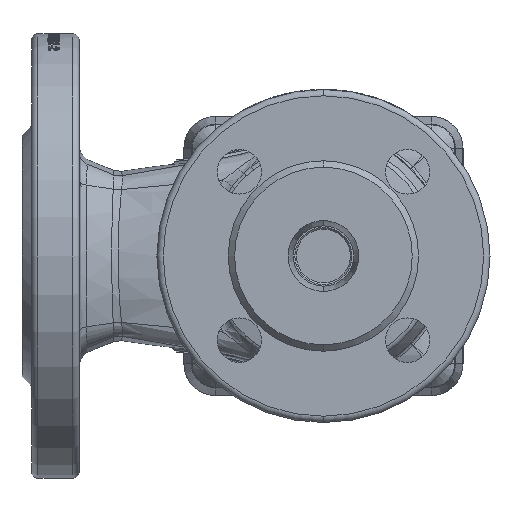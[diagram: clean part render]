
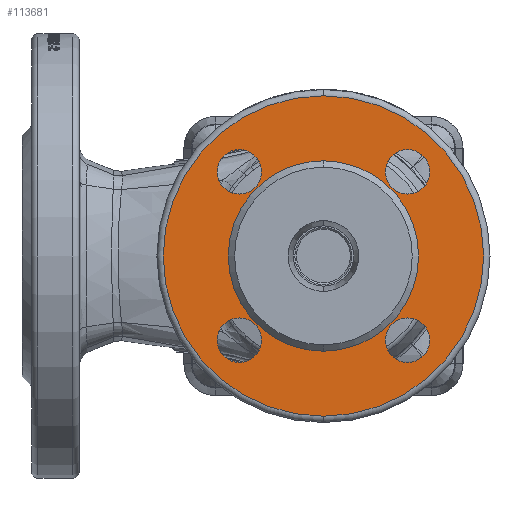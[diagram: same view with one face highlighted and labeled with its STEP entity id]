
A CAD part, front view. The second image highlights one B-rep face of the part: STEP entity #113681.
In plain terms, the highlighted planar face has unit normal (0, -1, 0).
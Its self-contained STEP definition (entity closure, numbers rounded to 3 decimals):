
#1334 = EDGE_CURVE ( 'NONE', #82433, #124693, #45755, .T. ) ;
#3461 = CARTESIAN_POINT ( 'NONE',  ( 0., -83., 50.5 ) ) ;
#3988 = EDGE_LOOP ( 'NONE', ( #109346, #88307 ) ) ;
#7831 = EDGE_CURVE ( 'NONE', #69328, #118741, #100975, .T. ) ;
#8564 = CARTESIAN_POINT ( 'NONE',  ( -26.517, -83., 33.517 ) ) ;
#9145 = EDGE_CURVE ( 'NONE', #128654, #79265, #37622, .T. ) ;
#11110 = DIRECTION ( 'NONE',  ( 0., 0., -1. ) ) ;
#11759 = FACE_BOUND ( 'NONE', #91321, .T. ) ;
#16196 = ORIENTED_EDGE ( 'NONE', *, *, #1334, .F. ) ;
#16458 = ORIENTED_EDGE ( 'NONE', *, *, #156417, .F. ) ;
#16763 = CIRCLE ( 'NONE', #139340, 30. ) ;
#18771 = CIRCLE ( 'NONE', #25528, 7. ) ;
#21673 = CARTESIAN_POINT ( 'NONE',  ( -26.517, -83., -26.517 ) ) ;
#25528 = AXIS2_PLACEMENT_3D ( 'NONE', #149979, #138938, #75135 ) ;
#26782 = CIRCLE ( 'NONE', #137940, 7. ) ;
#27554 = DIRECTION ( 'NONE',  ( 0., -1., 0. ) ) ;
#28875 = ORIENTED_EDGE ( 'NONE', *, *, #109331, .F. ) ;
#32017 = CIRCLE ( 'NONE', #108025, 30. ) ;
#33933 = AXIS2_PLACEMENT_3D ( 'NONE', #123357, #48562, #59049 ) ;
#34209 = CARTESIAN_POINT ( 'NONE',  ( 26.517, -83., 26.517 ) ) ;
#37289 = AXIS2_PLACEMENT_3D ( 'NONE', #140206, #27554, #154555 ) ;
#37622 = CIRCLE ( 'NONE', #141356, 7. ) ;
#40236 = CIRCLE ( 'NONE', #75180, 7. ) ;
#42954 = CARTESIAN_POINT ( 'NONE',  ( 26.517, -83., -19.517 ) ) ;
#45755 = CIRCLE ( 'NONE', #118991, 7. ) ;
#47085 = CIRCLE ( 'NONE', #65277, 50.5 ) ;
#47385 = CARTESIAN_POINT ( 'NONE',  ( 26.517, -83., 19.517 ) ) ;
#48562 = DIRECTION ( 'NONE',  ( 0., 1., 0. ) ) ;
#49136 = DIRECTION ( 'NONE',  ( 0., -1., 0. ) ) ;
#50008 = VERTEX_POINT ( 'NONE', #116886 ) ;
#52258 = DIRECTION ( 'NONE',  ( 0., -1., 0. ) ) ;
#55863 = AXIS2_PLACEMENT_3D ( 'NONE', #124456, #49136, #74401 ) ;
#59044 = FACE_BOUND ( 'NONE', #151344, .T. ) ;
#59049 = DIRECTION ( 'NONE',  ( 0., 0., 1. ) ) ;
#59457 = CIRCLE ( 'NONE', #73773, 7. ) ;
#60000 = DIRECTION ( 'NONE',  ( 0., -1., 0. ) ) ;
#61754 = EDGE_CURVE ( 'NONE', #79265, #128654, #59457, .T. ) ;
#62117 = CARTESIAN_POINT ( 'NONE',  ( 26.517, -83., 33.517 ) ) ;
#64496 = CARTESIAN_POINT ( 'NONE',  ( -26.517, -83., -33.517 ) ) ;
#65277 = AXIS2_PLACEMENT_3D ( 'NONE', #99311, #100935, #149953 ) ;
#66002 = DIRECTION ( 'NONE',  ( 0., 0., 1. ) ) ;
#66576 = PLANE ( 'NONE',  #37289 ) ;
#69328 = VERTEX_POINT ( 'NONE', #131508 ) ;
#69403 = VERTEX_POINT ( 'NONE', #134206 ) ;
#71289 = ORIENTED_EDGE ( 'NONE', *, *, #96939, .T. ) ;
#71330 = EDGE_CURVE ( 'NONE', #50008, #144292, #16763, .T. ) ;
#71348 = CARTESIAN_POINT ( 'NONE',  ( -26.517, -83., -26.517 ) ) ;
#71551 = VERTEX_POINT ( 'NONE', #135076 ) ;
#73773 = AXIS2_PLACEMENT_3D ( 'NONE', #115745, #154341, #91603 ) ;
#74401 = DIRECTION ( 'NONE',  ( 0., 0., -1. ) ) ;
#75135 = DIRECTION ( 'NONE',  ( 0., 0., -1. ) ) ;
#75180 = AXIS2_PLACEMENT_3D ( 'NONE', #71348, #146133, #134014 ) ;
#76427 = CARTESIAN_POINT ( 'NONE',  ( 26.517, -83., -26.517 ) ) ;
#77935 = ORIENTED_EDGE ( 'NONE', *, *, #61754, .F. ) ;
#78929 = ORIENTED_EDGE ( 'NONE', *, *, #160327, .F. ) ;
#79265 = VERTEX_POINT ( 'NONE', #62117 ) ;
#82433 = VERTEX_POINT ( 'NONE', #64496 ) ;
#88307 = ORIENTED_EDGE ( 'NONE', *, *, #91172, .F. ) ;
#88498 = FACE_BOUND ( 'NONE', #140061, .T. ) ;
#91172 = EDGE_CURVE ( 'NONE', #71551, #147580, #47085, .T. ) ;
#91321 = EDGE_LOOP ( 'NONE', ( #16458, #28875 ) ) ;
#91603 = DIRECTION ( 'NONE',  ( 0., 0., -1. ) ) ;
#93478 = EDGE_CURVE ( 'NONE', #118741, #69328, #18771, .T. ) ;
#93496 = CARTESIAN_POINT ( 'NONE',  ( 26.517, -83., -26.517 ) ) ;
#96939 = EDGE_CURVE ( 'NONE', #144292, #50008, #32017, .T. ) ;
#99311 = CARTESIAN_POINT ( 'NONE',  ( 0., -83., 0. ) ) ;
#100935 = DIRECTION ( 'NONE',  ( 0., 1., 0. ) ) ;
#100948 = AXIS2_PLACEMENT_3D ( 'NONE', #76427, #52258, #127038 ) ;
#100975 = CIRCLE ( 'NONE', #55863, 7. ) ;
#101430 = EDGE_CURVE ( 'NONE', #147580, #71551, #123690, .T. ) ;
#102172 = DIRECTION ( 'NONE',  ( 0., 1., 0. ) ) ;
#106174 = FACE_OUTER_BOUND ( 'NONE', #3988, .T. ) ;
#108025 = AXIS2_PLACEMENT_3D ( 'NONE', #116055, #116595, #153071 ) ;
#108113 = ORIENTED_EDGE ( 'NONE', *, *, #71330, .T. ) ;
#109331 = EDGE_CURVE ( 'NONE', #125907, #69403, #26782, .T. ) ;
#109346 = ORIENTED_EDGE ( 'NONE', *, *, #101430, .F. ) ;
#111989 = EDGE_LOOP ( 'NONE', ( #16196, #78929 ) ) ;
#113681 = ADVANCED_FACE ( 'NONE', ( #59044, #11759, #151547, #121969, #88498, #106174 ), #66576, .T. ) ;
#115745 = CARTESIAN_POINT ( 'NONE',  ( 26.517, -83., 26.517 ) ) ;
#116055 = CARTESIAN_POINT ( 'NONE',  ( 0., -83., 0. ) ) ;
#116595 = DIRECTION ( 'NONE',  ( 0., 1., 0. ) ) ;
#116886 = CARTESIAN_POINT ( 'NONE',  ( 0., -83., 30. ) ) ;
#118741 = VERTEX_POINT ( 'NONE', #8564 ) ;
#118991 = AXIS2_PLACEMENT_3D ( 'NONE', #21673, #153105, #139283 ) ;
#121969 = FACE_BOUND ( 'NONE', #161736, .T. ) ;
#123357 = CARTESIAN_POINT ( 'NONE',  ( 0., -83., 0. ) ) ;
#123690 = CIRCLE ( 'NONE', #33933, 50.5 ) ;
#124456 = CARTESIAN_POINT ( 'NONE',  ( -26.517, -83., 26.517 ) ) ;
#124693 = VERTEX_POINT ( 'NONE', #134374 ) ;
#125907 = VERTEX_POINT ( 'NONE', #42954 ) ;
#127038 = DIRECTION ( 'NONE',  ( 0., 0., -1. ) ) ;
#128654 = VERTEX_POINT ( 'NONE', #47385 ) ;
#128997 = ORIENTED_EDGE ( 'NONE', *, *, #93478, .F. ) ;
#131508 = CARTESIAN_POINT ( 'NONE',  ( -26.517, -83., 19.517 ) ) ;
#134014 = DIRECTION ( 'NONE',  ( 0., 0., -1. ) ) ;
#134206 = CARTESIAN_POINT ( 'NONE',  ( 26.517, -83., -33.517 ) ) ;
#134374 = CARTESIAN_POINT ( 'NONE',  ( -26.517, -83., -19.517 ) ) ;
#135076 = CARTESIAN_POINT ( 'NONE',  ( 0., -83., -50.5 ) ) ;
#136996 = ORIENTED_EDGE ( 'NONE', *, *, #9145, .F. ) ;
#137940 = AXIS2_PLACEMENT_3D ( 'NONE', #93496, #144056, #144617 ) ;
#138938 = DIRECTION ( 'NONE',  ( 0., -1., 0. ) ) ;
#139283 = DIRECTION ( 'NONE',  ( 0., 0., -1. ) ) ;
#139340 = AXIS2_PLACEMENT_3D ( 'NONE', #140147, #102172, #66002 ) ;
#140061 = EDGE_LOOP ( 'NONE', ( #108113, #71289 ) ) ;
#140147 = CARTESIAN_POINT ( 'NONE',  ( 0., -83., 0. ) ) ;
#140206 = CARTESIAN_POINT ( 'NONE',  ( -30., -83., 0. ) ) ;
#141356 = AXIS2_PLACEMENT_3D ( 'NONE', #34209, #60000, #11110 ) ;
#143742 = ORIENTED_EDGE ( 'NONE', *, *, #7831, .F. ) ;
#144056 = DIRECTION ( 'NONE',  ( 0., -1., 0. ) ) ;
#144292 = VERTEX_POINT ( 'NONE', #145785 ) ;
#144617 = DIRECTION ( 'NONE',  ( 0., 0., -1. ) ) ;
#145785 = CARTESIAN_POINT ( 'NONE',  ( 0., -83., -30. ) ) ;
#146133 = DIRECTION ( 'NONE',  ( 0., -1., 0. ) ) ;
#147580 = VERTEX_POINT ( 'NONE', #3461 ) ;
#149953 = DIRECTION ( 'NONE',  ( 0., 0., 1. ) ) ;
#149979 = CARTESIAN_POINT ( 'NONE',  ( -26.517, -83., 26.517 ) ) ;
#151344 = EDGE_LOOP ( 'NONE', ( #143742, #128997 ) ) ;
#151547 = FACE_BOUND ( 'NONE', #111989, .T. ) ;
#153071 = DIRECTION ( 'NONE',  ( 0., 0., 1. ) ) ;
#153105 = DIRECTION ( 'NONE',  ( 0., -1., 0. ) ) ;
#154341 = DIRECTION ( 'NONE',  ( 0., -1., 0. ) ) ;
#154555 = DIRECTION ( 'NONE',  ( 0., 0., -1. ) ) ;
#156417 = EDGE_CURVE ( 'NONE', #69403, #125907, #161224, .T. ) ;
#160327 = EDGE_CURVE ( 'NONE', #124693, #82433, #40236, .T. ) ;
#161224 = CIRCLE ( 'NONE', #100948, 7. ) ;
#161736 = EDGE_LOOP ( 'NONE', ( #136996, #77935 ) ) ;
